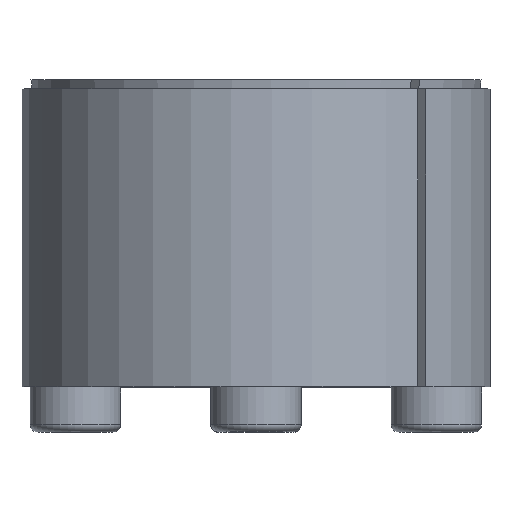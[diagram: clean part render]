
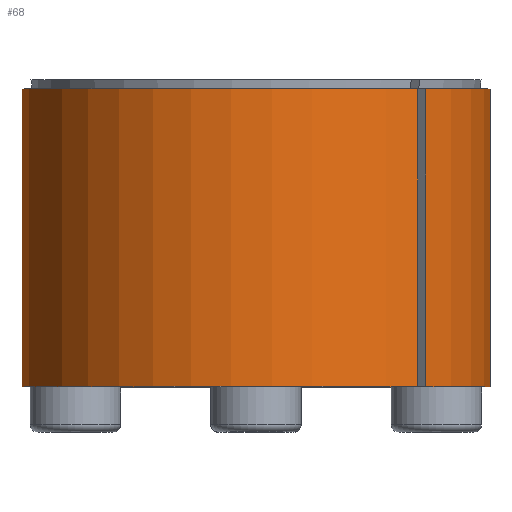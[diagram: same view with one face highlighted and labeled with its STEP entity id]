
A CAD part, top view. The second image highlights one B-rep face of the part: STEP entity #68.
In plain terms, the highlighted cylindrical face has radius 13 mm (diameter 26 mm), a partial arc.
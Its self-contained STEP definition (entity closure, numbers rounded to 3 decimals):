
#68 = ADVANCED_FACE( '', ( #139 ), #140, .T. );
#139 = FACE_OUTER_BOUND( '', #215, .T. );
#140 = CYLINDRICAL_SURFACE( '', #216, 13. );
#215 = EDGE_LOOP( '', ( #338, #339, #340, #341 ) );
#216 = AXIS2_PLACEMENT_3D( '', #342, #343, #344 );
#338 = ORIENTED_EDGE( '', *, *, #493, .T. );
#339 = ORIENTED_EDGE( '', *, *, #485, .T. );
#340 = ORIENTED_EDGE( '', *, *, #480, .T. );
#341 = ORIENTED_EDGE( '', *, *, #494, .T. );
#342 = CARTESIAN_POINT( '', ( 0., -60., 0. ) );
#343 = DIRECTION( '', ( 0., -1., 0. ) );
#344 = DIRECTION( '', ( 0., 0., 1. ) );
#480 = EDGE_CURVE( '', #601, #602, #603, .T. );
#485 = EDGE_CURVE( '', #610, #601, #611, .F. );
#493 = EDGE_CURVE( '', #621, #610, #622, .T. );
#494 = EDGE_CURVE( '', #602, #621, #623, .T. );
#601 = VERTEX_POINT( '', #820 );
#602 = VERTEX_POINT( '', #821 );
#603 = CIRCLE( '', #822, 13. );
#610 = VERTEX_POINT( '', #831 );
#611 = LINE( '', #832, #833 );
#621 = VERTEX_POINT( '', #851 );
#622 = CIRCLE( '', #852, 13. );
#623 = LINE( '', #853, #854 );
#820 = CARTESIAN_POINT( '', ( 9.419, -8.5, 8.96 ) );
#821 = CARTESIAN_POINT( '', ( 8.96, -8.5, 9.419 ) );
#822 = AXIS2_PLACEMENT_3D( '', #950, #951, #952 );
#831 = CARTESIAN_POINT( '', ( 9.419, 8., 8.96 ) );
#832 = CARTESIAN_POINT( '', ( 9.419, -60., 8.96 ) );
#833 = VECTOR( '', #958, 1000. );
#851 = CARTESIAN_POINT( '', ( 8.96, 8., 9.419 ) );
#852 = AXIS2_PLACEMENT_3D( '', #961, #962, #963 );
#853 = CARTESIAN_POINT( '', ( 8.96, -60., 9.419 ) );
#854 = VECTOR( '', #964, 1000. );
#950 = CARTESIAN_POINT( '', ( 0., -8.5, 0. ) );
#951 = DIRECTION( '', ( 0., 1., 0. ) );
#952 = DIRECTION( '', ( 0., 0., 1. ) );
#958 = DIRECTION( '', ( 0., 1., 0. ) );
#961 = CARTESIAN_POINT( '', ( 0., 8., 0. ) );
#962 = DIRECTION( '', ( 0., -1., 0. ) );
#963 = DIRECTION( '', ( 0., 0., -1. ) );
#964 = DIRECTION( '', ( 0., 1., 0. ) );
